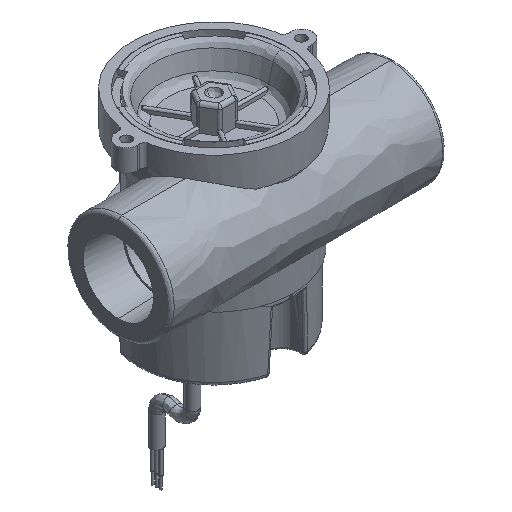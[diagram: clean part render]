
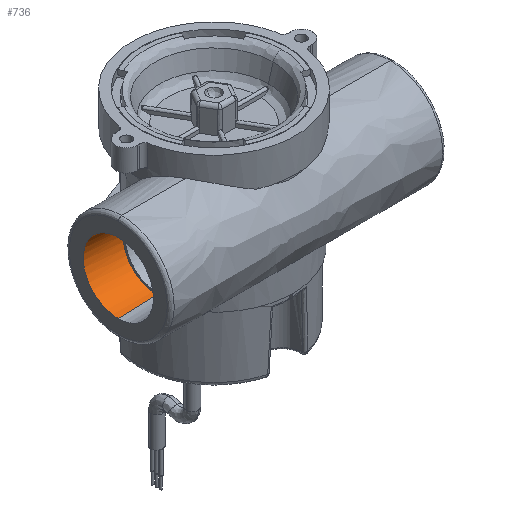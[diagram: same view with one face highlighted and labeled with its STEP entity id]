
A CAD part, isometric view. The second image highlights one B-rep face of the part: STEP entity #736.
In plain terms, the highlighted free-form (B-spline) face has degree [1, 3] with [2, 4] control points.
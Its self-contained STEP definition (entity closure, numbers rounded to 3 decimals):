
#433 = CARTESIAN_POINT ( 'NONE',  ( 22.895, -3.142, -50.038 ) ) ;
#585 = CARTESIAN_POINT ( 'NONE',  ( 35.423, -5.634, -50.038 ) ) ;
#736 = ADVANCED_FACE ( 'NONE', ( #6700 ), #9133, .T. ) ;
#1412 = CARTESIAN_POINT ( 'NONE',  ( 39.31, 9.38, -35.992 ) ) ;
#1472 = CARTESIAN_POINT ( 'NONE',  ( 39.31, -15.24, -35.992 ) ) ;
#1774 = CARTESIAN_POINT ( 'NONE',  ( 14.251, -15.24, -50.038 ) ) ;
#2670 = CARTESIAN_POINT ( 'NONE',  ( 39.667, -13.574, -50.038 ) ) ;
#2818 = CARTESIAN_POINT ( 'NONE',  ( 39.749, -15.24, -50.038 ) ) ;
#3127 = CARTESIAN_POINT ( 'NONE',  ( 30.308, -2.9, -50.038 ) ) ;
#3292 = EDGE_CURVE ( 'NONE', #11620, #8033, #14825, .T. ) ;
#3441 = CARTESIAN_POINT ( 'NONE',  ( 14.66, -11.932, -50.038 ) ) ;
#3503 = ORIENTED_EDGE ( 'NONE', *, *, #18944, .F. ) ;
#4598 = VERTEX_POINT ( 'NONE', #21848 ) ;
#5241 =( BOUNDED_CURVE ( )  B_SPLINE_CURVE ( 3, ( #9002, #1412, #20797, #16227 ),
 .UNSPECIFIED., .F., .F. ) 
 B_SPLINE_CURVE_WITH_KNOTS ( ( 4, 4 ),
 ( 0.5, 1. ),
 .UNSPECIFIED. ) 
 CURVE ( )  GEOMETRIC_REPRESENTATION_ITEM ( )  RATIONAL_B_SPLINE_CURVE ( ( 1., 0.333, 0.333, 1. ) ) 
 REPRESENTATION_ITEM ( '' )  );
#5360 = CARTESIAN_POINT ( 'NONE',  ( 38.458, -9.588, -50.038 ) ) ;
#5377 = CARTESIAN_POINT ( 'NONE',  ( 39.31, -15.24, -35.992 ) ) ;
#5516 = CARTESIAN_POINT ( 'NONE',  ( 27.837, -2.491, -50.038 ) ) ;
#6700 = FACE_OUTER_BOUND ( 'NONE', #20936, .T. ) ;
#7409 = CARTESIAN_POINT ( 'NONE',  ( 17.394, -6.817, -50.038 ) ) ;
#8033 = VERTEX_POINT ( 'NONE', #30545 ) ;
#8411 = CARTESIAN_POINT ( 'NONE',  ( 39.749, -15.24, -50.038 ) ) ;
#8543 = CARTESIAN_POINT ( 'NONE',  ( 14.251, -15.24, -50.038 ) ) ;
#9002 = CARTESIAN_POINT ( 'NONE',  ( 39.31, -15.24, -35.992 ) ) ;
#9133 =( BOUNDED_SURFACE ( )  B_SPLINE_SURFACE ( 1, 3, ( 
 ( #28468, #13778, #25922, #18482 ),
 ( #1472, #18949, #25763, #9365 ) ),
 .UNSPECIFIED., .F., .F., .F. ) 
 B_SPLINE_SURFACE_WITH_KNOTS ( ( 2, 2 ),
 ( 4, 4 ),
 ( 0., 1. ),
 ( 0., 1. ),
 .UNSPECIFIED. ) 
 GEOMETRIC_REPRESENTATION_ITEM ( )  RATIONAL_B_SPLINE_SURFACE ( (
 ( 1., 0.333, 0.333, 1.),
 ( 1., 0.333, 0.333, 1.) ) ) 
 REPRESENTATION_ITEM ( '' )  SURFACE ( )  );
#9365 = CARTESIAN_POINT ( 'NONE',  ( 14.69, -15.24, -35.992 ) ) ;
#10069 = CARTESIAN_POINT ( 'NONE',  ( 21.348, -3.782, -50.038 ) ) ;
#10216 = CARTESIAN_POINT ( 'NONE',  ( 28.667, -2.573, -50.038 ) ) ;
#10681 = CARTESIAN_POINT ( 'NONE',  ( 14.251, -14.403, -50.038 ) ) ;
#10838 = CARTESIAN_POINT ( 'NONE',  ( 14.251, -15.24, -50.038 ) ) ;
#11620 = VERTEX_POINT ( 'NONE', #8411 ) ;
#12437 = CARTESIAN_POINT ( 'NONE',  ( 39.099, -11.134, -50.038 ) ) ;
#13778 = CARTESIAN_POINT ( 'NONE',  ( 39.749, 10.257, -50.038 ) ) ;
#14075 = ORIENTED_EDGE ( 'NONE', *, *, #25217, .F. ) ;
#14825 = B_SPLINE_CURVE_WITH_KNOTS ( 'NONE', 1,
 ( #26982, #5377 ),
 .UNSPECIFIED., .F., .F.,
 ( 2, 2 ),
 ( 0., 1. ),
 .UNSPECIFIED. ) ;
#15121 = CARTESIAN_POINT ( 'NONE',  ( 23.692, -2.899, -50.038 ) ) ;
#15426 = CARTESIAN_POINT ( 'NONE',  ( 14.333, -13.574, -50.038 ) ) ;
#15597 = EDGE_CURVE ( 'NONE', #8033, #4598, #5241, .T. ) ;
#16134 = B_SPLINE_CURVE_WITH_KNOTS ( 'NONE', 3,
 ( #2818, #24433, #2670, #29489, #12437, #5360, #22214, #22059, #19358, #585, #17622, #17462, #24893, #27115, #3127, #10216, #5516, #19668, #22531, #15121, #433, #10069, #26649, #24743, #29337, #7409, #22370, #17001, #25040, #29958, #3441, #15426, #10681, #10838 ),
 .UNSPECIFIED., .F., .F.,
 ( 4, 2, 2, 2, 2, 2, 2, 2, 2, 2, 2, 2, 2, 2, 2, 2, 4 ),
 ( 0.5, 0.531, 0.563, 0.594, 0.625, 0.656, 0.688, 0.719, 0.75, 0.781, 0.813, 0.844, 0.875, 0.906, 0.938, 0.969, 1. ),
 .UNSPECIFIED. ) ;
#16227 = CARTESIAN_POINT ( 'NONE',  ( 14.69, -15.24, -35.992 ) ) ;
#16579 = CARTESIAN_POINT ( 'NONE',  ( 14.69, -15.24, -35.992 ) ) ;
#16618 = ORIENTED_EDGE ( 'NONE', *, *, #3292, .T. ) ;
#17001 = CARTESIAN_POINT ( 'NONE',  ( 15.935, -8.853, -50.038 ) ) ;
#17024 = VERTEX_POINT ( 'NONE', #8543 ) ;
#17462 = CARTESIAN_POINT ( 'NONE',  ( 33.387, -4.175, -50.038 ) ) ;
#17622 = CARTESIAN_POINT ( 'NONE',  ( 34.779, -5.105, -50.038 ) ) ;
#18482 = CARTESIAN_POINT ( 'NONE',  ( 14.251, -15.24, -50.038 ) ) ;
#18944 = EDGE_CURVE ( 'NONE', #17024, #4598, #27935, .T. ) ;
#18949 = CARTESIAN_POINT ( 'NONE',  ( 39.31, 9.38, -35.992 ) ) ;
#19358 = CARTESIAN_POINT ( 'NONE',  ( 36.607, -6.817, -50.038 ) ) ;
#19668 = CARTESIAN_POINT ( 'NONE',  ( 26.163, -2.491, -50.038 ) ) ;
#20797 = CARTESIAN_POINT ( 'NONE',  ( 14.69, 9.38, -35.992 ) ) ;
#20936 = EDGE_LOOP ( 'NONE', ( #14075, #16618, #27629, #3503 ) ) ;
#21848 = CARTESIAN_POINT ( 'NONE',  ( 14.69, -15.24, -35.992 ) ) ;
#22059 = CARTESIAN_POINT ( 'NONE',  ( 37.136, -7.461, -50.038 ) ) ;
#22214 = CARTESIAN_POINT ( 'NONE',  ( 38.065, -8.853, -50.038 ) ) ;
#22370 = CARTESIAN_POINT ( 'NONE',  ( 16.865, -7.462, -50.038 ) ) ;
#22531 = CARTESIAN_POINT ( 'NONE',  ( 25.334, -2.573, -50.038 ) ) ;
#24433 = CARTESIAN_POINT ( 'NONE',  ( 39.749, -14.403, -50.038 ) ) ;
#24743 = CARTESIAN_POINT ( 'NONE',  ( 19.222, -5.105, -50.038 ) ) ;
#24893 = CARTESIAN_POINT ( 'NONE',  ( 32.652, -3.782, -50.038 ) ) ;
#25040 = CARTESIAN_POINT ( 'NONE',  ( 15.542, -9.588, -50.038 ) ) ;
#25217 = EDGE_CURVE ( 'NONE', #11620, #17024, #16134, .T. ) ;
#25763 = CARTESIAN_POINT ( 'NONE',  ( 14.69, 9.38, -35.992 ) ) ;
#25922 = CARTESIAN_POINT ( 'NONE',  ( 14.251, 10.257, -50.038 ) ) ;
#26649 = CARTESIAN_POINT ( 'NONE',  ( 20.613, -4.175, -50.038 ) ) ;
#26982 = CARTESIAN_POINT ( 'NONE',  ( 39.749, -15.24, -50.038 ) ) ;
#27115 = CARTESIAN_POINT ( 'NONE',  ( 31.106, -3.141, -50.038 ) ) ;
#27629 = ORIENTED_EDGE ( 'NONE', *, *, #15597, .T. ) ;
#27935 = B_SPLINE_CURVE_WITH_KNOTS ( 'NONE', 1,
 ( #1774, #16579 ),
 .UNSPECIFIED., .F., .F.,
 ( 2, 2 ),
 ( 0., 1. ),
 .UNSPECIFIED. ) ;
#28468 = CARTESIAN_POINT ( 'NONE',  ( 39.749, -15.24, -50.038 ) ) ;
#29337 = CARTESIAN_POINT ( 'NONE',  ( 18.577, -5.634, -50.038 ) ) ;
#29489 = CARTESIAN_POINT ( 'NONE',  ( 39.341, -11.932, -50.038 ) ) ;
#29958 = CARTESIAN_POINT ( 'NONE',  ( 14.902, -11.134, -50.038 ) ) ;
#30545 = CARTESIAN_POINT ( 'NONE',  ( 39.31, -15.24, -35.992 ) ) ;
